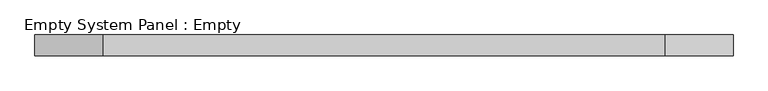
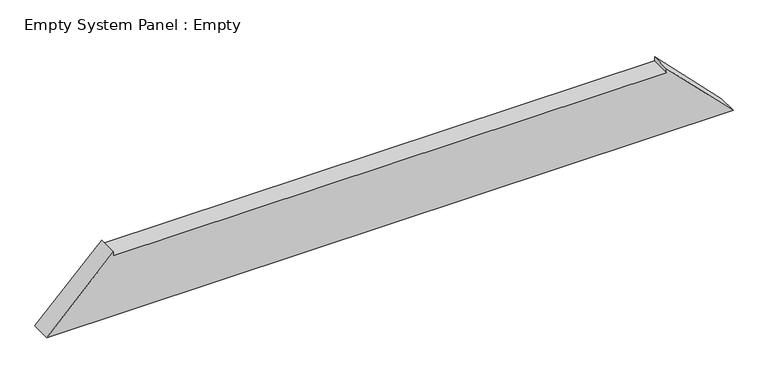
"""IFC4 building model written with IfcOpenShell, lengths in millimetres: plate geometry, Empty System Panel : Empty."""

from ifc_helpers import new_model, si_unit, frame, origin, place, context, project, spatial, polyline, outline, extrude, source, transform, mapped, element, save


def empty_system_panel_empty_8a2486aa(model_context):
    return source(origin(), model_context, "Body", "SweptSolid", [
        extrude(outline(polyline([(0.0, -1679.9698831), (0.0, 1679.9698831), (330.0, 1353.6208866), (310.0, 1353.6208866), (310.0, -1353.6208866), (330.0, -1353.6208866), (0.0, -1679.9698831)])), frame((0.0, -50.0, 0.0), z_axis=(0.0, 1.0, 0.0), x_axis=(0.0, 0.0, 1.0)), (0.0, 0.0, 1.0), 100.0),
    ])


if __name__ == "__main__":
    model = new_model("IFC4")
    model_context = context("Model", 3, world=origin())
    ifc_project = project(units=[si_unit("LENGTHUNIT", "METRE", prefix="MILLI")], contexts=[model_context])
    site = spatial("IfcSite", under=ifc_project)
    building = spatial("IfcBuilding", under=site)
    placement = place(None, origin())
    empty_system_panel_empty_shape = empty_system_panel_empty_8a2486aa(model_context)
    element("IfcPlate", 1, ObjectType="Empty System Panel : Empty", at=placement, inside=building, context=model_context, shape_type="MappedRepresentation", body=[
        mapped(empty_system_panel_empty_shape, transform((0.0, 0.0, 0.0), x_axis=(1.0, 0.0, 0.0), y_axis=(0.0, 1.0, 0.0), z_axis=(0.0, 0.0, 1.0))),
    ])
    save(model, "model.ifc")
